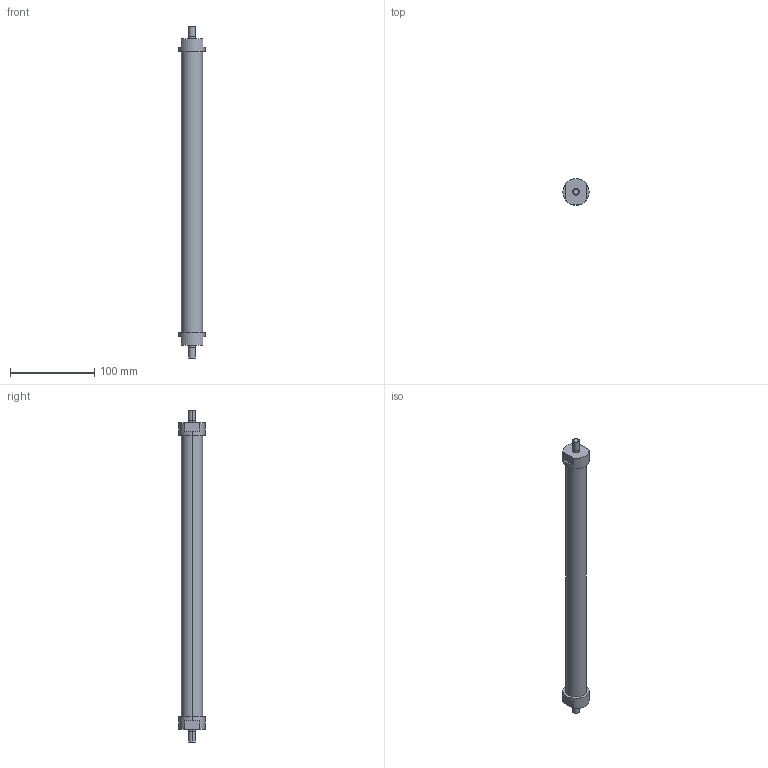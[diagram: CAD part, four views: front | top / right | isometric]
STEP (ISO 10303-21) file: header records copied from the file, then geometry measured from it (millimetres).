
FILE_DESCRIPTION(('STEP AP214'),'1');
FILE_NAME('ETT-R050N374.stp','2015-02-02T15:36:03',(' '),(' '),'Spatial InterOp 3D',' ',' ');
FILE_SCHEMA(('automotive_design'));
Length unit declared in the file: metre
Products named in the file (3): 1; 2; 3
Bounding box: 31 x 31 x 394 mm (x, y, z)
Volume: 186957.9 mm3; surface area: 32459.6 mm2
Topology: 1 solids, 7 shells, 30 faces, 81 edges, 63 vertices
Faces by surface type: plane 16, cylinder 14
Entity records: 1295 total; most frequent: DIRECTION 194, CARTESIAN_POINT 177, ORIENTED_EDGE 138, EDGE_CURVE 81, AXIS2_PLACEMENT_3D 80, VERTEX_POINT 63, CIRCLE 47, EDGE_LOOP 36
